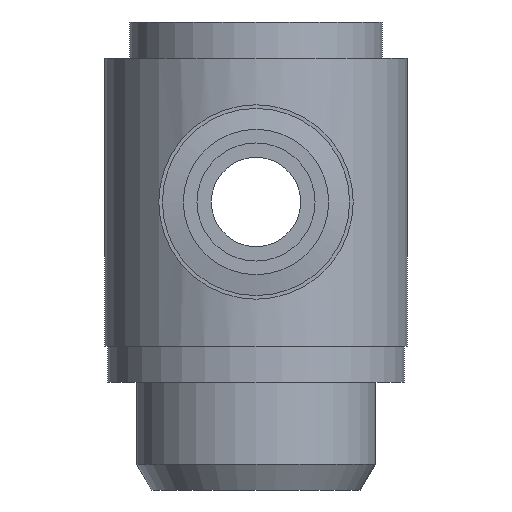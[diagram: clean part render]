
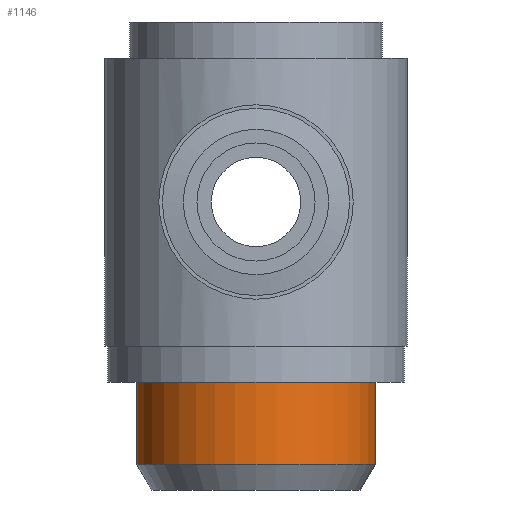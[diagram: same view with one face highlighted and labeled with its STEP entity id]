
A CAD part, front view. The second image highlights one B-rep face of the part: STEP entity #1146.
In plain terms, the highlighted cylindrical face has radius 8.3 mm (diameter 16.6 mm), a full revolution.
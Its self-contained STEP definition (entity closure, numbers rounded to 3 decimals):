
#1106=CARTESIAN_POINT('',(0.,-8.3,-18.2));
#1107=VERTEX_POINT('',#1106);
#1108=CARTESIAN_POINT('',(0.0,0.0,-18.2));
#1109=DIRECTION('',(0.0,0.0,-1.0));
#1110=DIRECTION('',(0.0,1.0,0.0));
#1111=AXIS2_PLACEMENT_3D('',#1108,#1109,#1110);
#1112=CIRCLE('',#1111,8.3);
#1113=EDGE_CURVE('',#1107,#1107,#1112,.T.);
#1127=CARTESIAN_POINT('',(0.0,0.0,-16.25));
#1128=DIRECTION('',(0.0,0.0,1.0));
#1129=DIRECTION('',(0.0,-1.0,0.0));
#1130=AXIS2_PLACEMENT_3D('',#1127,#1128,#1129);
#1131=CYLINDRICAL_SURFACE('',#1130,8.3);
#1132=CARTESIAN_POINT('',(0.0,-8.3,-12.5));
#1133=VERTEX_POINT('',#1132);
#1134=CARTESIAN_POINT('',(0.0,0.0,-12.5));
#1135=DIRECTION('',(0.0,0.0,1.0));
#1136=DIRECTION('',(0.0,-1.0,0.0));
#1137=AXIS2_PLACEMENT_3D('',#1134,#1135,#1136);
#1138=CIRCLE('',#1137,8.3);
#1139=EDGE_CURVE('',#1133,#1133,#1138,.T.);
#1140=ORIENTED_EDGE('',*,*,#1139,.F.);
#1141=EDGE_LOOP('',(#1140));
#1142=FACE_OUTER_BOUND('',#1141,.T.);
#1143=ORIENTED_EDGE('',*,*,#1113,.F.);
#1144=EDGE_LOOP('',(#1143));
#1145=FACE_BOUND('',#1144,.T.);
#1146=ADVANCED_FACE('',(#1142,#1145),#1131,.T.);
